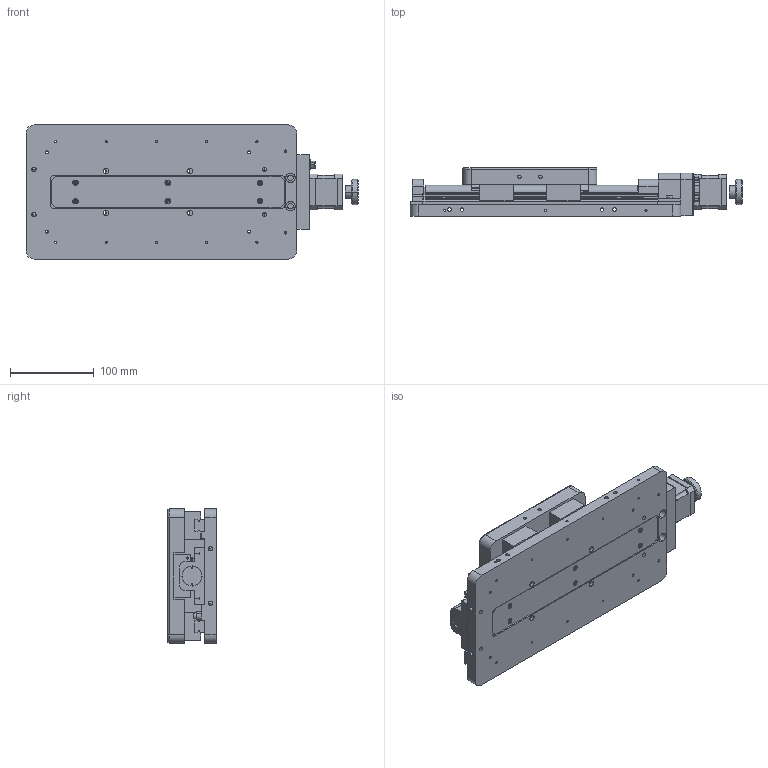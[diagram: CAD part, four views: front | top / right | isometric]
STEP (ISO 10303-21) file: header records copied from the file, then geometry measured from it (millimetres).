
FILE_DESCRIPTION (( 'STEP AP203' ), '1' );
FILE_NAME ('7STA03100Bµç¶¯Æ½ÒÆÌ¨.STEP', '2022-07-07T08:34:24', ( '' ), ( '' ), 'SwSTEP 2.0', 'SolidWorks 2018', '' );
FILE_SCHEMA (( 'CONFIG_CONTROL_DESIGN' ));
Products named in the file (1): 7STA03100B萇雄す痄怢
Bounding box: 396 x 58 x 160 mm (x, y, z)
Surface area: 303863.5 mm2 (no closed solid volume)
Topology: 0 solids, 109 shells, 1195 faces, 4215 edges, 2989 vertices
Faces by surface type: plane 578, cylinder 434, torus 83, cone 66, sphere 34
Entity records: 45578 total; most frequent: CARTESIAN_POINT 9438, DIRECTION 7915, ORIENTED_EDGE 6410, EDGE_CURVE 4105, VERTEX_POINT 2945, AXIS2_PLACEMENT_3D 2806, LINE 2303, VECTOR 2303
